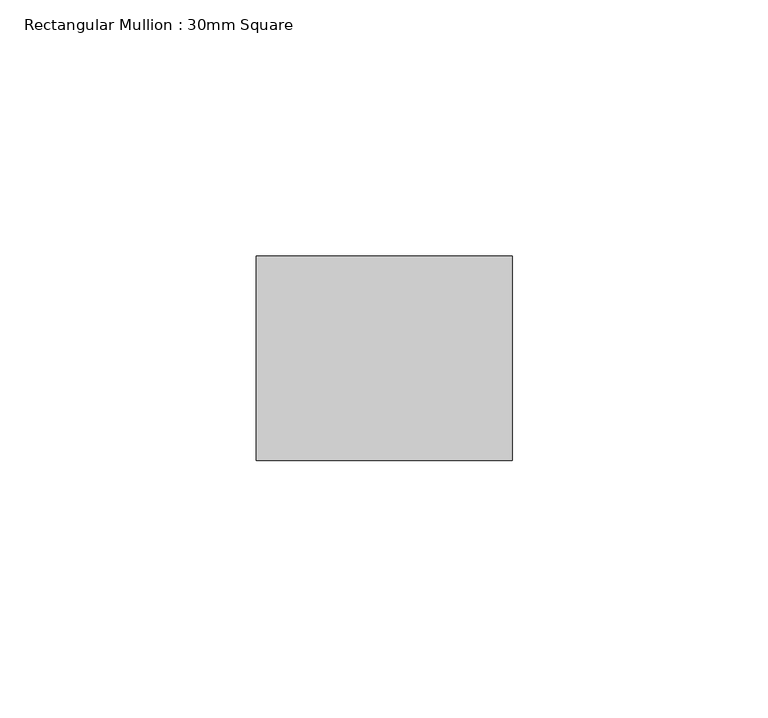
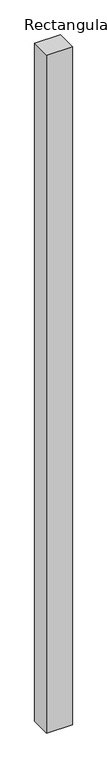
"""IFC4 building model written with IfcOpenShell, lengths in millimetres: member geometry, Rectangular Mullion : 30mm Square."""

from ifc_helpers import new_model, si_unit, frame, origin, place, context, project, spatial, polyline, outline, extrude, source, transform, mapped, element, save


def rectangular_mullion_30mm_square_eb0cdd89(model_context):
    return source(origin(), model_context, "Body", "SweptSolid", [
        extrude(outline(polyline([(0.0, 20.0), (0.0, -20.0), (-50.0, -20.0), (-50.0, 20.0), (0.0, 20.0)])), frame((0.0, 0.0, -1392.2482609), z_axis=(0.0, 0.0, 1.0), x_axis=(1.0, 0.0, 0.0)), (0.0, 0.0, 1.0), 1392.2482609),
    ])


if __name__ == "__main__":
    model = new_model("IFC4")
    model_context = context("Model", 3, world=origin())
    ifc_project = project(units=[si_unit("LENGTHUNIT", "METRE", prefix="MILLI")], contexts=[model_context])
    site = spatial("IfcSite", under=ifc_project)
    building = spatial("IfcBuilding", under=site)
    placement = place(None, origin())
    rectangular_mullion_30mm_square_shape = rectangular_mullion_30mm_square_eb0cdd89(model_context)
    element("IfcMember", 1, ObjectType="Rectangular Mullion : 30mm Square", at=placement, inside=building, context=model_context, shape_type="MappedRepresentation", body=[
        mapped(rectangular_mullion_30mm_square_shape, transform((0.0, 0.0, 0.0), x_axis=(1.0, 0.0, 0.0), y_axis=(0.0, 1.0, 0.0), z_axis=(0.0, 0.0, 1.0))),
    ])
    save(model, "model.ifc")
